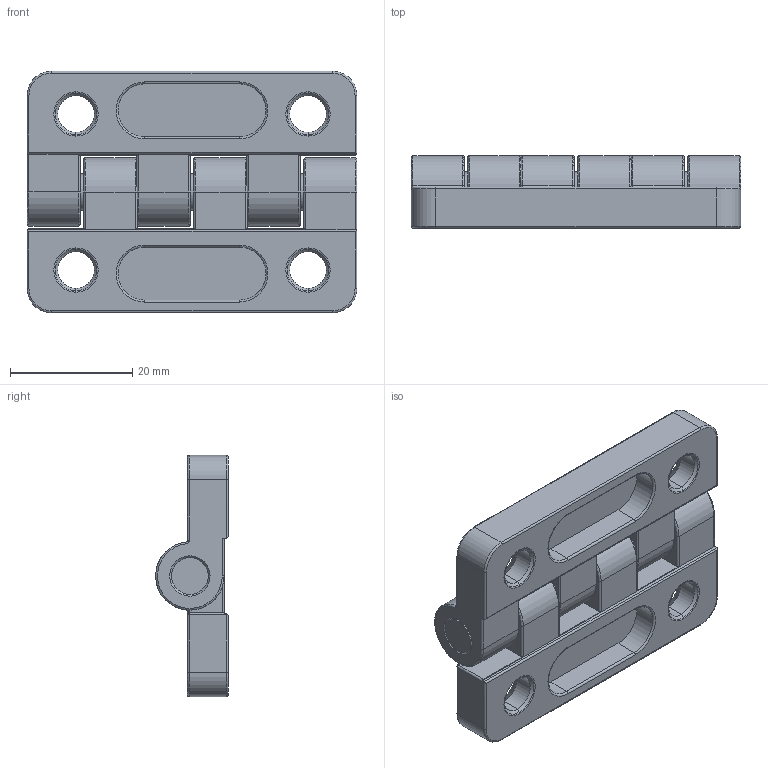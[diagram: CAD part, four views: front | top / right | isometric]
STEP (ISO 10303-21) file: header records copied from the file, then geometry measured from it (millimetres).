
FILE_DESCRIPTION (( 'STEP AP203' ), '1' );
FILE_NAME ('XG02-036-2.STEP', '2023-12-07T07:25:47', ( '' ), ( '' ), 'SwSTEP 2.0', 'SolidWorks 2020', '' );
FILE_SCHEMA (( 'CONFIG_CONTROL_DESIGN' ));
Length unit declared in the file: millimetre
Products named in the file (1): XG02-036-2
Bounding box: 54 x 11.87 x 39.56 mm (x, y, z)
Volume: 12533.2 mm3; surface area: 7402.4 mm2
Topology: 1 solids, 1 shells, 212 faces, 516 edges, 306 vertices
Faces by surface type: cylinder 92, torus 56, plane 42, cone 20, sphere 2
Entity records: 6349 total; most frequent: CARTESIAN_POINT 1183, DIRECTION 1174, ORIENTED_EDGE 1028, EDGE_CURVE 514, AXIS2_PLACEMENT_3D 487, VERTEX_POINT 306, CIRCLE 274, EDGE_LOOP 230
